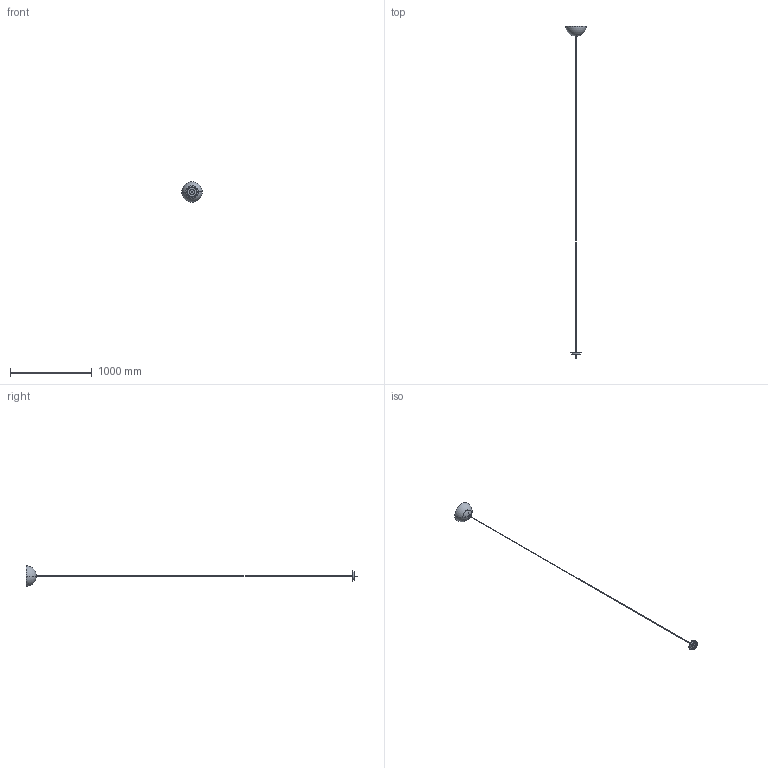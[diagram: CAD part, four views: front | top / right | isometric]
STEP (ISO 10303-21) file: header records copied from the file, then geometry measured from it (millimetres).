
FILE_DESCRIPTION((''),'2;1');
FILE_NAME('SOSPESA_250_SW0001','2025-05-14T12:31:17',('elena.baldelli'),(''),'CREO PARAMETRIC BY PTC INC, 2020354','CREO PARAMETRIC BY PTC INC, 2020354','');
FILE_SCHEMA(('CONFIG_CONTROL_DESIGN'));
Length unit declared in the file: millimetre
Products named in the file (1): SOSPESA_250_SW0001
Bounding box: 250 x 4070 x 250 mm (x, y, z)
Surface area: 347494 mm2 (no closed solid volume)
Topology: 0 solids, 9 shells, 34 faces, 118 edges, 89 vertices
Faces by surface type: cylinder 10, sphere 9, plane 7, torus 4, cone 4
Entity records: 1352 total; most frequent: DIRECTION 266, CARTESIAN_POINT 255, ORIENTED_EDGE 170, AXIS2_PLACEMENT_3D 124, EDGE_CURVE 116, CIRCLE 90, VERTEX_POINT 89, EDGE_LOOP 39
